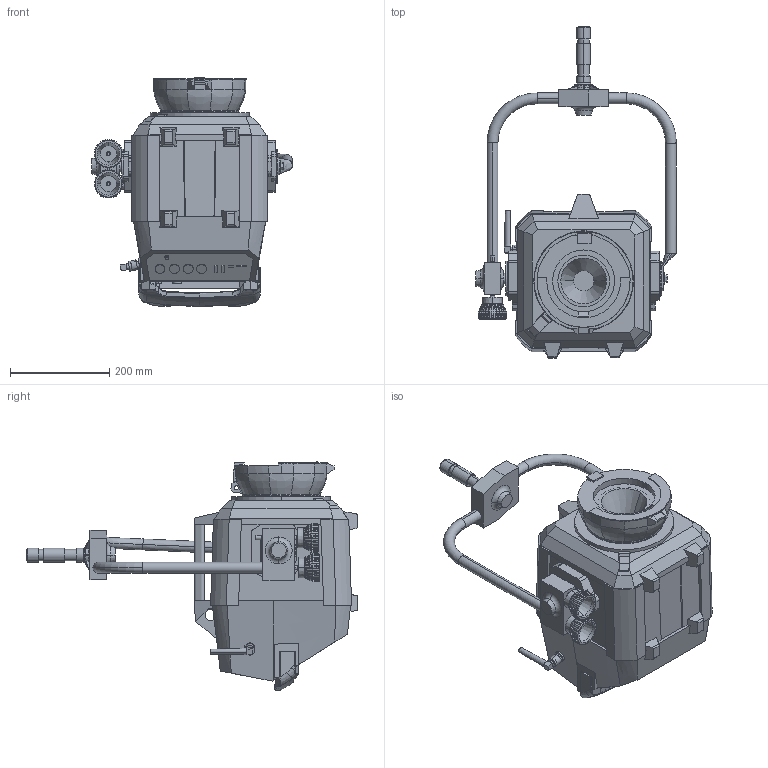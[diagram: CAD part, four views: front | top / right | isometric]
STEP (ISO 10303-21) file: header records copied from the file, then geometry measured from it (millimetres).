
FILE_DESCRIPTION (( 'STEP AP214' ), '1' );
FILE_NAME ('Orbiter OF 60°.STEP', '2020-04-30T12:09:32', ( '' ), ( '' ), 'SwSTEP 2.0', 'SolidWorks 2018', '' );
FILE_SCHEMA (( 'AUTOMOTIVE_DESIGN' ));
Length unit declared in the file: millimetre
Products named in the file (7): OF60_update_Druckknopf; Aufhaengezapfen; Orbiter_import_part; PO-Buegel; Antenne_import_part; Orbiter OF 60°; Control_Panel_import_part
Assembly tree (6 placements, depth 2):
  Orbiter OF 60°
    Orbiter_import_part
    Control_Panel_import_part
    Antenne_import_part
    PO-Buegel
    Aufhaengezapfen
    OF60_update_Druckknopf
Bounding box: 405.2 x 669.95 x 461.34 mm (x, y, z)
Volume: 18527668.1 mm3; surface area: 1300314.9 mm2
Topology: 8 solids, 14 shells, 1716 faces, 4479 edges, 2868 vertices
Faces by surface type: plane 952, bspline 311, cylinder 310, cone 115, torus 26, sphere 2
Entity records: 80506 total; most frequent: CARTESIAN_POINT 21803, ORIENTED_EDGE 8946, DIRECTION 7145, EDGE_CURVE 4473, VERTEX_POINT 2866, LINE 2445, VECTOR 2445, AXIS2_PLACEMENT_3D 2350
